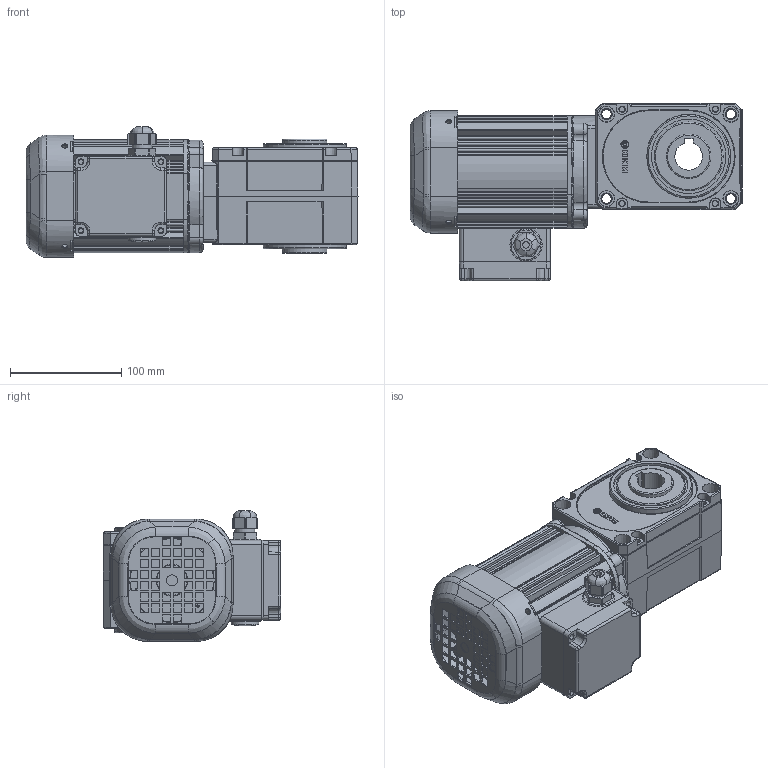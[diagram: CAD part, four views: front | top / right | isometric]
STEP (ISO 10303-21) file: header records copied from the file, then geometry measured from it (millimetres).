
FILE_DESCRIPTION (( 'STEP AP203' ), '1' );
FILE_NAME ('DSY25B-(40~60)N020-¤±.STEP', '2022-08-08T06:43:35', ( '' ), ( '' ), 'SwSTEP 2.0', 'SolidWorks 2018', '' );
FILE_SCHEMA (( 'CONFIG_CONTROL_DESIGN' ));
Length unit declared in the file: millimetre
Products named in the file (15): Щ滓衛綰_ル遽; dkm 0.2kW の醴幗; DSY25B-(40~60)N020-仃; DKM 0.2kW 菴醴幗 陛奢紫(20200128); 0.2KW 賅攪; 欽濠夢蝶 葆偃; 95 牢惯橇饭烙 弥辆啊傍档(20200128); 欽濠夢蝶 ж 熱薑; 堅鼠ぬ韁-ж; DKM 窜磊措 惑何荐沥档(20200120); COVER-DSY02L-DC; 欽濠夢蝶 ASS''Y; CASE-DSY02L-DC; 堅鼠ぬ韁-鼻; DSY02L 馬樓晦
Assembly tree (14 placements, depth 3):
  DSY25B-(40~60)N020-仃
    欽濠夢蝶 ASS''Y
      欽濠夢蝶 ж 熱薑
      Щ滓衛綰_ル遽
      欽濠夢蝶 葆偃
      堅鼠ぬ韁-鼻
      堅鼠ぬ韁-ж
      DKM 窜磊措 惑何荐沥档(20200120)
    DSY02L 馬樓晦
      CASE-DSY02L-DC
      COVER-DSY02L-DC
    0.2KW 賅攪
      95 牢惯橇饭烙 弥辆啊傍档(20200128)
      DKM 0.2kW 菴醴幗 陛奢紫(20200128)
      dkm 0.2kW の醴幗
Bounding box: 299 x 160.05 x 117.66 mm (x, y, z)
Volume: 2432181.3 mm3; surface area: 343664 mm2
Topology: 11 solids, 12 shells, 1554 faces, 4026 edges, 2533 vertices
Faces by surface type: plane 730, cylinder 504, bspline 214, torus 71, cone 31, sphere 4
Full cylindrical faces by diameter (mm): 2.514 x2, 3.318 x2, 3.5 x4, 4.2 x8, 4.5 x4, 5 x12, 5.3 x16, 6 x1, 8.5 x4, 10 x9, 10.8 x1, 14 x4, 16.5 x1, 18 x2, 19 x1, 20 x2, 22 x1, 25 x1, 28 x1, 40 x3, 62 x2, 67 x2
Entity records: 56371 total; most frequent: CARTESIAN_POINT 18296, ORIENTED_EDGE 7676, DIRECTION 7194, EDGE_CURVE 3838, VERTEX_POINT 2504, AXIS2_PLACEMENT_3D 2466, LINE 2262, VECTOR 2262
